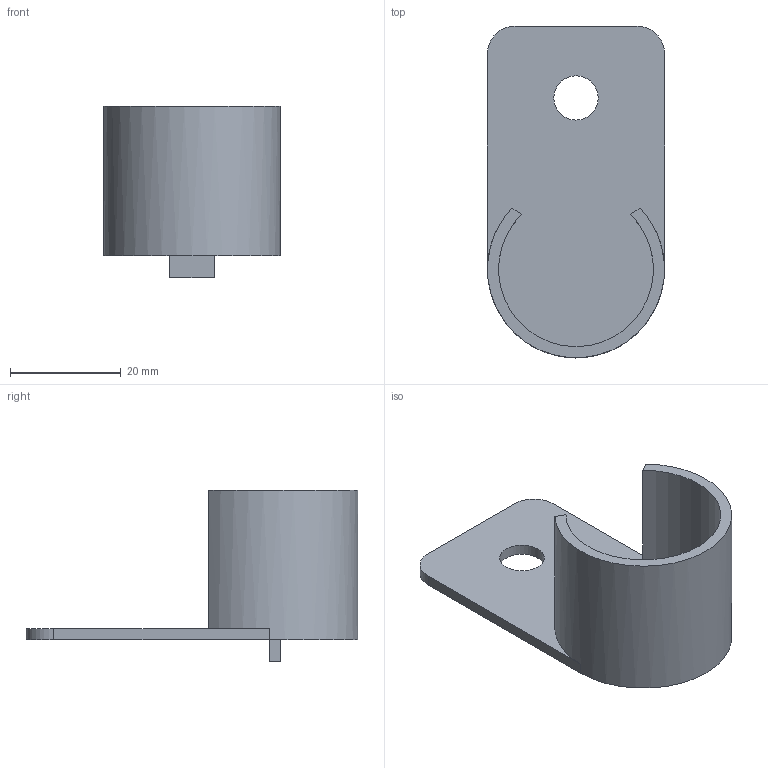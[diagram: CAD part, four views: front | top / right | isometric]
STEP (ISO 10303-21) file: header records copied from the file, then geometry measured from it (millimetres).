
FILE_DESCRIPTION (( 'STEP AP214' ), '1' );
FILE_NAME ('990-000.step', '2022-09-28T08:49:36', ( '' ), ( '' ), 'SwSTEP 2.0', 'SolidWorks 2021', '' );
FILE_SCHEMA (( 'AUTOMOTIVE_DESIGN' ));
Length unit declared in the file: millimetre
Products named in the file (1): 990-000
Bounding box: 32 x 60 x 31 mm (x, y, z)
Volume: 7079.5 mm3; surface area: 7580.9 mm2
Topology: 1 solids, 1 shells, 18 faces, 45 edges, 30 vertices
Faces by surface type: plane 13, cylinder 5
Full cylindrical faces by diameter (mm): 8 x1
Entity records: 574 total; most frequent: DIRECTION 94, CARTESIAN_POINT 93, ORIENTED_EDGE 88, EDGE_CURVE 44, VECTOR 32, LINE 32, AXIS2_PLACEMENT_3D 31, VERTEX_POINT 30
